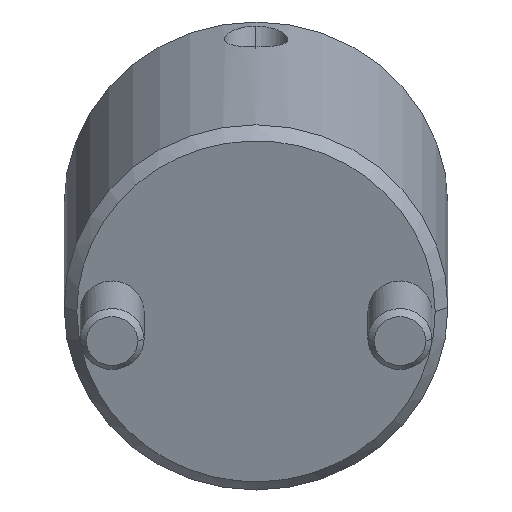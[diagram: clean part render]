
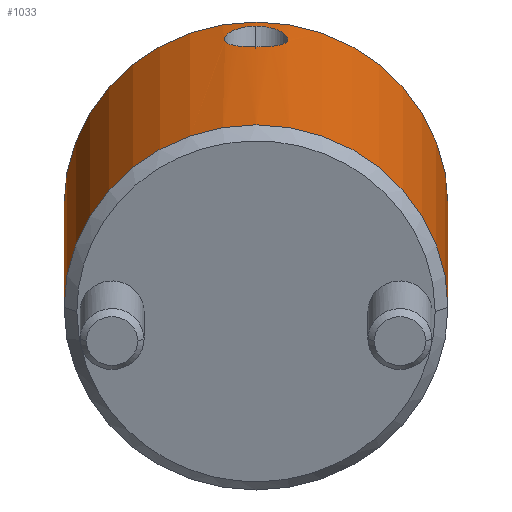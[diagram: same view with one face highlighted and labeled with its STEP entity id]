
A CAD part, front view. The second image highlights one B-rep face of the part: STEP entity #1033.
In plain terms, the highlighted cylindrical face has radius 15 mm (diameter 30 mm), a partial arc.
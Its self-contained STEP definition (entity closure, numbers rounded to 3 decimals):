
#790=CARTESIAN_POINT('Vertex',(0.,15.,1.)) ;
#793=CARTESIAN_POINT('Axis2P3D Location',(0.,0.,1.)) ;
#797=CARTESIAN_POINT('Vertex',(0.,-15.,1.)) ;
#937=CARTESIAN_POINT('Axis2P3D Location',(0.,0.,-1.4)) ;
#942=CARTESIAN_POINT('Line Origine',(0.,15.,-1.4)) ;
#946=CARTESIAN_POINT('Vertex',(0.,15.,27.)) ;
#949=CARTESIAN_POINT('Axis2P3D Location',(0.,0.,27.)) ;
#953=CARTESIAN_POINT('Vertex',(0.,-15.,27.)) ;
#956=CARTESIAN_POINT('Line Origine',(0.,-15.,-1.4)) ;
#968=CARTESIAN_POINT('Control Point',(15.,0.,25.963)) ;
#969=CARTESIAN_POINT('Control Point',(15.,0.072,25.963)) ;
#970=CARTESIAN_POINT('Control Point',(15.,0.144,25.96)) ;
#971=CARTESIAN_POINT('Control Point',(14.999,0.216,25.954)) ;
#972=CARTESIAN_POINT('Control Point',(14.995,0.433,25.928)) ;
#973=CARTESIAN_POINT('Control Point',(14.987,0.648,25.875)) ;
#974=CARTESIAN_POINT('Control Point',(14.98,0.796,25.826)) ;
#975=CARTESIAN_POINT('Control Point',(14.963,1.075,25.708)) ;
#976=CARTESIAN_POINT('Control Point',(14.942,1.329,25.549)) ;
#977=CARTESIAN_POINT('Control Point',(14.93,1.455,25.457)) ;
#978=CARTESIAN_POINT('Control Point',(14.893,1.81,25.154)) ;
#979=CARTESIAN_POINT('Control Point',(14.854,2.099,24.769)) ;
#980=CARTESIAN_POINT('Control Point',(14.83,2.256,24.479)) ;
#981=CARTESIAN_POINT('Control Point',(14.802,2.428,24.014)) ;
#982=CARTESIAN_POINT('Control Point',(14.791,2.495,23.524)) ;
#983=CARTESIAN_POINT('Control Point',(14.789,2.505,23.361)) ;
#984=CARTESIAN_POINT('Control Point',(14.79,2.502,22.958)) ;
#985=CARTESIAN_POINT('Control Point',(14.803,2.425,22.566)) ;
#986=CARTESIAN_POINT('Control Point',(14.815,2.354,22.34)) ;
#987=CARTESIAN_POINT('Control Point',(14.84,2.194,21.981)) ;
#988=CARTESIAN_POINT('Control Point',(14.87,1.971,21.663)) ;
#989=CARTESIAN_POINT('Control Point',(14.883,1.872,21.543)) ;
#990=CARTESIAN_POINT('Control Point',(14.909,1.66,21.323)) ;
#991=CARTESIAN_POINT('Control Point',(14.934,1.417,21.138)) ;
#992=CARTESIAN_POINT('Control Point',(14.945,1.288,21.055)) ;
#993=CARTESIAN_POINT('Control Point',(14.971,0.971,20.883)) ;
#994=CARTESIAN_POINT('Control Point',(14.989,0.619,20.77)) ;
#995=CARTESIAN_POINT('Control Point',(14.996,0.412,20.725)) ;
#996=CARTESIAN_POINT('Control Point',(15.,0.206,20.705)) ;
#997=CARTESIAN_POINT('Control Point',(15.,0.,20.705)) ;
#998=CARTESIAN_POINT('Vertex',(15.,0.,25.963)) ;
#1000=CARTESIAN_POINT('Vertex',(15.,0.,20.705)) ;
#1004=CARTESIAN_POINT('Control Point',(15.,0.,20.705)) ;
#1005=CARTESIAN_POINT('Control Point',(15.,-0.15,20.705)) ;
#1006=CARTESIAN_POINT('Control Point',(14.998,-0.3,20.716)) ;
#1007=CARTESIAN_POINT('Control Point',(14.994,-0.45,20.739)) ;
#1008=CARTESIAN_POINT('Control Point',(14.983,-0.751,20.809)) ;
#1009=CARTESIAN_POINT('Control Point',(14.965,-1.039,20.923)) ;
#1010=CARTESIAN_POINT('Control Point',(14.955,-1.174,20.99)) ;
#1011=CARTESIAN_POINT('Control Point',(14.91,-1.702,21.304)) ;
#1012=CARTESIAN_POINT('Control Point',(14.854,-2.12,21.77)) ;
#1013=CARTESIAN_POINT('Control Point',(14.816,-2.349,22.194)) ;
#1014=CARTESIAN_POINT('Control Point',(14.787,-2.518,22.82)) ;
#1015=CARTESIAN_POINT('Control Point',(14.79,-2.5,23.466)) ;
#1016=CARTESIAN_POINT('Control Point',(14.793,-2.483,23.63)) ;
#1017=CARTESIAN_POINT('Control Point',(14.805,-2.412,24.035)) ;
#1018=CARTESIAN_POINT('Control Point',(14.828,-2.269,24.42)) ;
#1019=CARTESIAN_POINT('Control Point',(14.845,-2.159,24.642)) ;
#1020=CARTESIAN_POINT('Control Point',(14.881,-1.898,25.047)) ;
#1021=CARTESIAN_POINT('Control Point',(14.92,-1.564,25.378)) ;
#1022=CARTESIAN_POINT('Control Point',(14.938,-1.379,25.525)) ;
#1023=CARTESIAN_POINT('Control Point',(14.969,-1.015,25.753)) ;
#1024=CARTESIAN_POINT('Control Point',(14.99,-0.599,25.895)) ;
#1025=CARTESIAN_POINT('Control Point',(14.997,-0.399,25.941)) ;
#1026=CARTESIAN_POINT('Control Point',(15.,-0.2,25.963)) ;
#1027=CARTESIAN_POINT('Control Point',(15.,0.,25.963)) ;
#794=DIRECTION('Axis2P3D Direction',(0.,0.,1.)) ;
#938=DIRECTION('Axis2P3D Direction',(0.,-0.,1.)) ;
#939=DIRECTION('Axis2P3D XDirection',(0.,-1.,0.)) ;
#943=DIRECTION('Vector Direction',(0.,0.,1.)) ;
#950=DIRECTION('Axis2P3D Direction',(0.,-0.,1.)) ;
#957=DIRECTION('Vector Direction',(0.,0.,1.)) ;
#795=AXIS2_PLACEMENT_3D('Circle Axis2P3D',#793,#794,$) ;
#940=AXIS2_PLACEMENT_3D('Cylinder Axis2P3D',#937,#938,#939) ;
#951=AXIS2_PLACEMENT_3D('Circle Axis2P3D',#949,#950,$) ;
#962=ORIENTED_EDGE('',*,*,#948,.F.) ;
#963=ORIENTED_EDGE('',*,*,#955,.T.) ;
#964=ORIENTED_EDGE('',*,*,#960,.T.) ;
#965=ORIENTED_EDGE('',*,*,#799,.F.) ;
#1030=ORIENTED_EDGE('',*,*,#1002,.T.) ;
#1031=ORIENTED_EDGE('',*,*,#1028,.T.) ;
#1032=FACE_BOUND('',#1029,.T.) ;
#944=VECTOR('Line Direction',#943,1.) ;
#958=VECTOR('Line Direction',#957,1.) ;
#1033=ADVANCED_FACE('MANIFOLD_SOLID_BREP #1106',(#966,#1032),#941,.T.) ;
#967=B_SPLINE_CURVE_WITH_KNOTS('',5,(#968,#969,#970,#971,#972,#973,#974,#975,#976,#977,#978,#979,#980,#981,#982,#983,#984,#985,#986,#987,#988,#989,#990,#991,#992,#993,#994,#995,#996,#997),.UNSPECIFIED.,.F.,.U.,(6,3,3,3,3,3,3,3,3,6),(0.,0.524,1.591,2.694,4.954,6.072,7.732,8.831,9.918,11.413),.UNSPECIFIED.) ;
#1003=B_SPLINE_CURVE_WITH_KNOTS('',5,(#1004,#1005,#1006,#1007,#1008,#1009,#1010,#1011,#1012,#1013,#1014,#1015,#1016,#1017,#1018,#1019,#1020,#1021,#1022,#1023,#1024,#1025,#1026,#1027),.UNSPECIFIED.,.F.,.U.,(6,3,3,3,3,3,3,6),(0.,1.098,2.193,5.511,6.631,8.322,9.968,11.415),.UNSPECIFIED.) ;
#796=CIRCLE('generated circle',#795,15.) ;
#952=CIRCLE('generated circle',#951,15.) ;
#941=CYLINDRICAL_SURFACE('generated cylinder',#940,15.) ;
#799=EDGE_CURVE('',#791,#798,#796,.F.) ;
#948=EDGE_CURVE('',#947,#791,#945,.F.) ;
#955=EDGE_CURVE('',#947,#954,#952,.F.) ;
#960=EDGE_CURVE('',#954,#798,#959,.F.) ;
#1002=EDGE_CURVE('',#999,#1001,#967,.T.) ;
#1028=EDGE_CURVE('',#1001,#999,#1003,.T.) ;
#961=EDGE_LOOP('',(#962,#963,#964,#965)) ;
#1029=EDGE_LOOP('',(#1030,#1031)) ;
#966=FACE_OUTER_BOUND('',#961,.T.) ;
#945=LINE('Line',#942,#944) ;
#959=LINE('Line',#956,#958) ;
#791=VERTEX_POINT('',#790) ;
#798=VERTEX_POINT('',#797) ;
#947=VERTEX_POINT('',#946) ;
#954=VERTEX_POINT('',#953) ;
#999=VERTEX_POINT('',#998) ;
#1001=VERTEX_POINT('',#1000) ;
